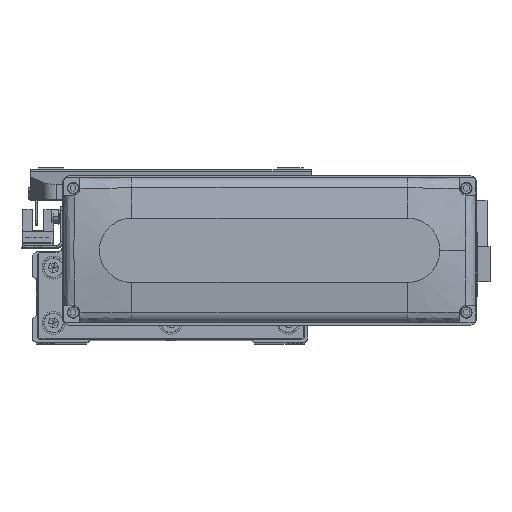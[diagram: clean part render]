
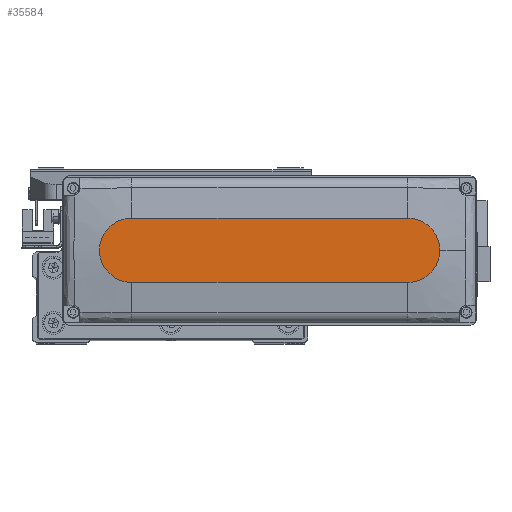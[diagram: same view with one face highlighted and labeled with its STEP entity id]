
A CAD part, top view. The second image highlights one B-rep face of the part: STEP entity #35584.
In plain terms, the highlighted planar face has unit normal (0, 0, 1).
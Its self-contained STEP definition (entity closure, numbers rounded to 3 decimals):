
#255 = VERTEX_POINT ( 'NONE', #30988 ) ;
#2197 = VERTEX_POINT ( 'NONE', #15997 ) ;
#2977 = DIRECTION ( 'NONE',  ( 1., 0., 0. ) ) ;
#4931 = ORIENTED_EDGE ( 'NONE', *, *, #8212, .T. ) ;
#5219 = CIRCLE ( 'NONE', #24578, 14. ) ;
#6024 = DIRECTION ( 'NONE',  ( 0., 0., 1. ) ) ;
#7242 = DIRECTION ( 'NONE',  ( 1., 0., 0. ) ) ;
#8212 = EDGE_CURVE ( 'NONE', #34996, #255, #12704, .T. ) ;
#8428 = DIRECTION ( 'NONE',  ( 0., 0., 1. ) ) ;
#8981 = VERTEX_POINT ( 'NONE', #39305 ) ;
#9824 = VERTEX_POINT ( 'NONE', #41761 ) ;
#10899 = AXIS2_PLACEMENT_3D ( 'NONE', #48965, #6024, #2977 ) ;
#12330 = EDGE_CURVE ( 'NONE', #2197, #9824, #5219, .T. ) ;
#12704 = CIRCLE ( 'NONE', #45817, 14. ) ;
#13117 = DIRECTION ( 'NONE',  ( -1., 0., 0. ) ) ;
#15873 = CARTESIAN_POINT ( 'NONE',  ( 60., 0., 28.5 ) ) ;
#15997 = CARTESIAN_POINT ( 'NONE',  ( 60., -14., 28.5 ) ) ;
#16017 = AXIS2_PLACEMENT_3D ( 'NONE', #15873, #19438, #20173 ) ;
#19438 = DIRECTION ( 'NONE',  ( 0., 0., 1. ) ) ;
#19688 = EDGE_CURVE ( 'NONE', #255, #2197, #33446, .T. ) ;
#20173 = DIRECTION ( 'NONE',  ( 1., 0., 0. ) ) ;
#21857 = CARTESIAN_POINT ( 'NONE',  ( -60., -14., 28.5 ) ) ;
#24232 = CARTESIAN_POINT ( 'NONE',  ( -60., 14., 28.5 ) ) ;
#24578 = AXIS2_PLACEMENT_3D ( 'NONE', #42357, #49459, #7242 ) ;
#24990 = EDGE_CURVE ( 'NONE', #9824, #8981, #28232, .T. ) ;
#25238 = LINE ( 'NONE', #24232, #25404 ) ;
#25404 = VECTOR ( 'NONE', #13117, 1000. ) ;
#25475 = PLANE ( 'NONE',  #10899 ) ;
#25553 = ORIENTED_EDGE ( 'NONE', *, *, #24990, .T. ) ;
#28232 = CIRCLE ( 'NONE', #16017, 14. ) ;
#28808 = VECTOR ( 'NONE', #29427, 1000. ) ;
#29427 = DIRECTION ( 'NONE',  ( 1., 0., 0. ) ) ;
#30988 = CARTESIAN_POINT ( 'NONE',  ( -60., -14., 28.5 ) ) ;
#31842 = ORIENTED_EDGE ( 'NONE', *, *, #35476, .T. ) ;
#33160 = ORIENTED_EDGE ( 'NONE', *, *, #19688, .T. ) ;
#33446 = LINE ( 'NONE', #21857, #28808 ) ;
#34996 = VERTEX_POINT ( 'NONE', #45908 ) ;
#35476 = EDGE_CURVE ( 'NONE', #8981, #34996, #25238, .T. ) ;
#35584 = ADVANCED_FACE ( 'NONE', ( #37342 ), #25475, .T. ) ;
#37342 = FACE_OUTER_BOUND ( 'NONE', #42865, .T. ) ;
#39242 = DIRECTION ( 'NONE',  ( 1., 0., 0. ) ) ;
#39305 = CARTESIAN_POINT ( 'NONE',  ( 60., 14., 28.5 ) ) ;
#41761 = CARTESIAN_POINT ( 'NONE',  ( 74., 0., 28.5 ) ) ;
#42357 = CARTESIAN_POINT ( 'NONE',  ( 60., 0., 28.5 ) ) ;
#42865 = EDGE_LOOP ( 'NONE', ( #31842, #4931, #33160, #49238, #25553 ) ) ;
#43039 = CARTESIAN_POINT ( 'NONE',  ( -60., 0., 28.5 ) ) ;
#45817 = AXIS2_PLACEMENT_3D ( 'NONE', #43039, #8428, #39242 ) ;
#45908 = CARTESIAN_POINT ( 'NONE',  ( -60., 14., 28.5 ) ) ;
#48965 = CARTESIAN_POINT ( 'NONE',  ( 0., 0., 28.5 ) ) ;
#49238 = ORIENTED_EDGE ( 'NONE', *, *, #12330, .T. ) ;
#49459 = DIRECTION ( 'NONE',  ( 0., 0., 1. ) ) ;
